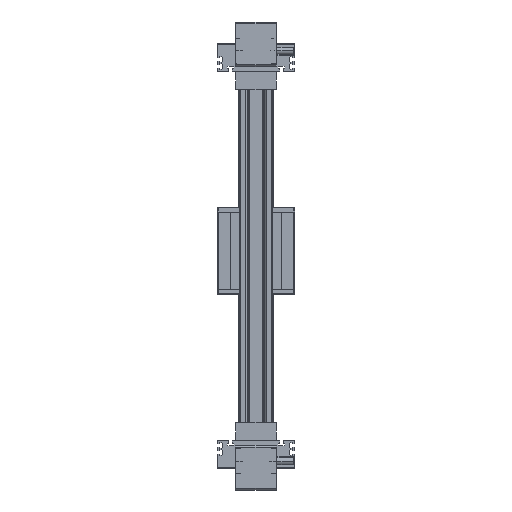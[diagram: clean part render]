
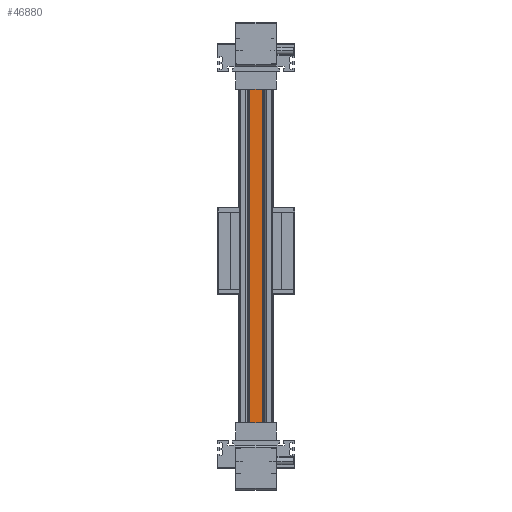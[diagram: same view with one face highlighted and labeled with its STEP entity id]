
A CAD part, front view. The second image highlights one B-rep face of the part: STEP entity #46880.
In plain terms, the highlighted planar face has unit normal (0, -1, 0).
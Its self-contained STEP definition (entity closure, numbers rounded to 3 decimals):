
#886 = EDGE_CURVE ( 'NONE', #41039, #10427, #11960, .T. ) ;
#2407 = DIRECTION ( 'NONE',  ( -1., 0., 0. ) ) ;
#5634 = EDGE_CURVE ( 'NONE', #10427, #12955, #12869, .T. ) ;
#6725 = FACE_OUTER_BOUND ( 'NONE', #45201, .T. ) ;
#7280 = DIRECTION ( 'NONE',  ( 0., 1., 0. ) ) ;
#7392 = CARTESIAN_POINT ( 'NONE',  ( 820., 0., 0. ) ) ;
#9204 = CARTESIAN_POINT ( 'NONE',  ( 820., 0., -30. ) ) ;
#10427 = VERTEX_POINT ( 'NONE', #55890 ) ;
#11045 = CARTESIAN_POINT ( 'NONE',  ( 820., 0., -30. ) ) ;
#11960 = LINE ( 'NONE', #34303, #34874 ) ;
#12869 = LINE ( 'NONE', #48445, #34329 ) ;
#12955 = VERTEX_POINT ( 'NONE', #42524 ) ;
#15629 = DIRECTION ( 'NONE',  ( -1., 0., 0. ) ) ;
#18521 = VECTOR ( 'NONE', #39341, 1000. ) ;
#25452 = CARTESIAN_POINT ( 'NONE',  ( 820., 0., 0. ) ) ;
#28575 = VECTOR ( 'NONE', #15629, 1000. ) ;
#30097 = ORIENTED_EDGE ( 'NONE', *, *, #5634, .T. ) ;
#34303 = CARTESIAN_POINT ( 'NONE',  ( 820., 0., 0. ) ) ;
#34329 = VECTOR ( 'NONE', #57615, 1000. ) ;
#34642 = PLANE ( 'NONE',  #54587 ) ;
#34874 = VECTOR ( 'NONE', #2407, 1000. ) ;
#36465 = EDGE_CURVE ( 'NONE', #43801, #12955, #39295, .T. ) ;
#36556 = ORIENTED_EDGE ( 'NONE', *, *, #886, .T. ) ;
#39219 = DIRECTION ( 'NONE',  ( 0., 0., 1. ) ) ;
#39295 = LINE ( 'NONE', #11045, #28575 ) ;
#39341 = DIRECTION ( 'NONE',  ( 0., 0., -1. ) ) ;
#41039 = VERTEX_POINT ( 'NONE', #57251 ) ;
#42351 = EDGE_CURVE ( 'NONE', #41039, #43801, #53528, .T. ) ;
#42524 = CARTESIAN_POINT ( 'NONE',  ( 0., 0., -30. ) ) ;
#43801 = VERTEX_POINT ( 'NONE', #9204 ) ;
#45201 = EDGE_LOOP ( 'NONE', ( #30097, #57572, #53795, #36556 ) ) ;
#46880 = ADVANCED_FACE ( 'NONE', ( #6725 ), #34642, .F. ) ;
#48445 = CARTESIAN_POINT ( 'NONE',  ( 0., 0., 0. ) ) ;
#53528 = LINE ( 'NONE', #7392, #18521 ) ;
#53795 = ORIENTED_EDGE ( 'NONE', *, *, #42351, .F. ) ;
#54587 = AXIS2_PLACEMENT_3D ( 'NONE', #25452, #7280, #39219 ) ;
#55890 = CARTESIAN_POINT ( 'NONE',  ( 0., 0., 0. ) ) ;
#57251 = CARTESIAN_POINT ( 'NONE',  ( 820., 0., 0. ) ) ;
#57572 = ORIENTED_EDGE ( 'NONE', *, *, #36465, .F. ) ;
#57615 = DIRECTION ( 'NONE',  ( 0., 0., -1. ) ) ;
